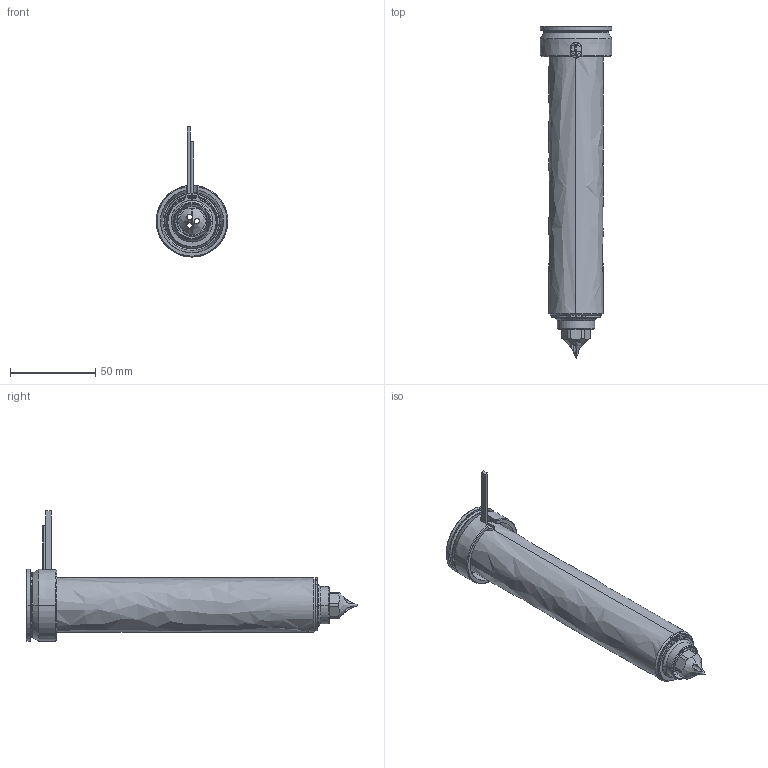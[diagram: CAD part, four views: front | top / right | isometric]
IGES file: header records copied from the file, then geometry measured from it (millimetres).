
Start section: SolidWorks IGES file using analytic representation for surfaces
Global section: file name: C:\Users\luca.EMPAD\Desktop\TEM\UGDL3615-M-A-1 [Øf=0.6 ØC=10].IGS; native system: SolidWorks 2012; preprocessor: SolidWorks 2012; author: luca; date: 120330.160504; units: millimetre
Bounding box: 42 x 194.8 x 76.3 mm (x, y, z)
Surface area: 61904 mm2 (no closed solid volume)
Topology: 0 solids, 0 shells, 122 faces, 2172 edges, 2172 vertices
Faces by surface type: revolution 79, bspline 43
